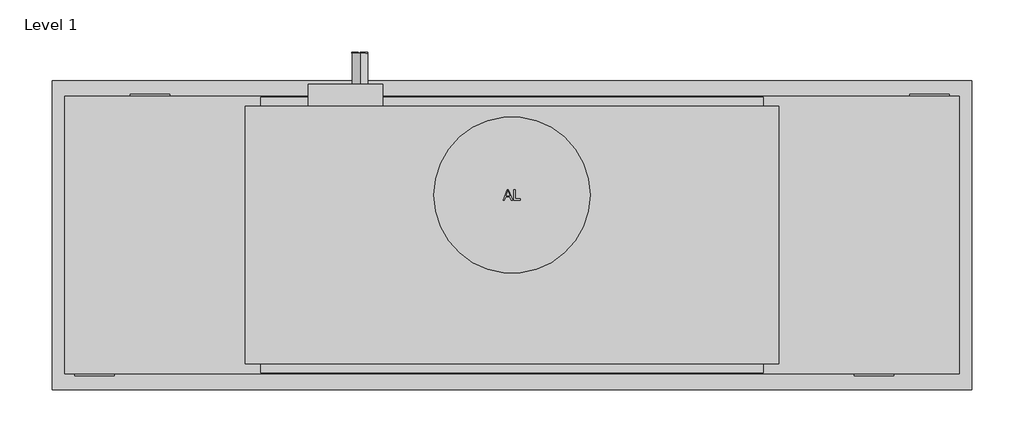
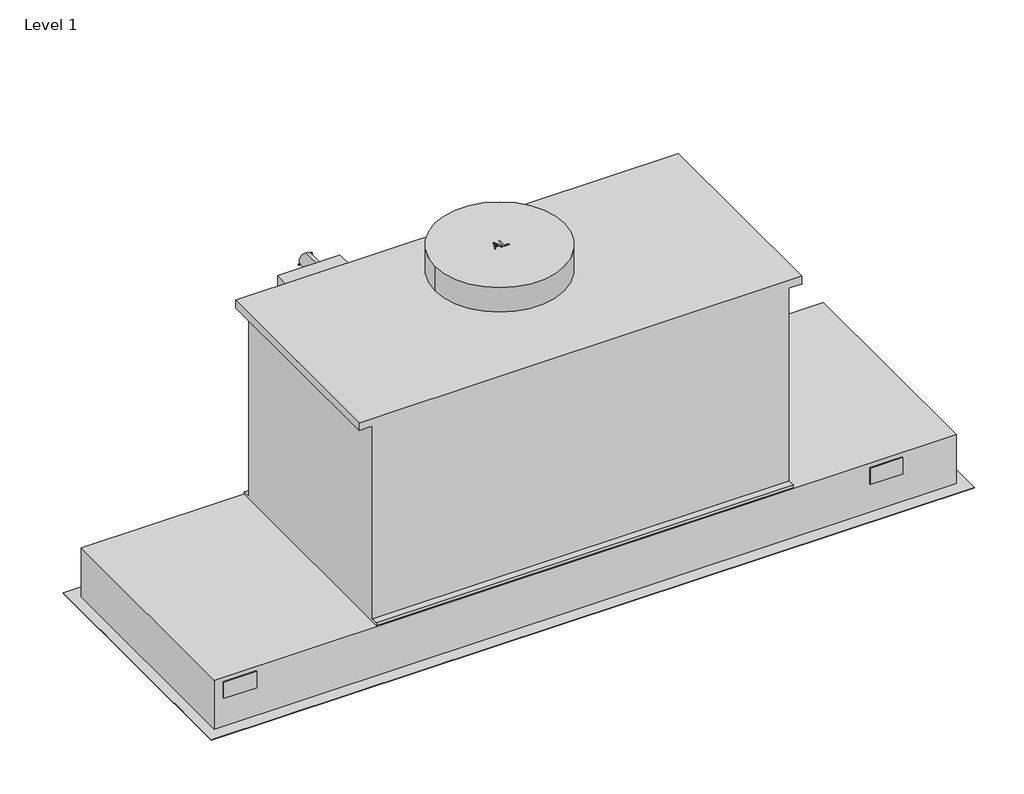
# One storey: 1 proxy.
"""IFC4 building model written with IfcOpenShell, lengths in millimetres."""

from ifc_helpers import new_model, si_unit, origin, place, context, project, spatial, transform, mapped, element, save
from components import specialty_equipment_3949a3b0

model = new_model("IFC4")

# Units and contexts
model_context = context("Model", 3, world=origin())
ifc_project = project(units=[si_unit("LENGTHUNIT", "METRE", prefix="MILLI")], contexts=[model_context])

# Site, building, storey
site = spatial("IfcSite", under=ifc_project)
building = spatial("IfcBuilding", under=site)
storey = spatial("IfcBuildingStorey", under=building, Name="Level 1", Elevation=0.0)

# Proxy
placement = place(None, origin())
specialty_equipment_shape = specialty_equipment_3949a3b0(model_context)
element("IfcBuildingElementProxy", 1, Name="10743660_USA_DA2390 : 28239055_USA_10743660_DA2390", ObjectType="10743660_USA_DA2390 : 28239055_USA_10743660_DA2390", at=placement, inside=storey, context=model_context, shape_type="MappedRepresentation", body=[
    mapped(specialty_equipment_shape, transform((0.0, 0.0, 0.0), x_axis=(1.0, 0.0, 0.0), y_axis=(0.0, 1.0, 0.0), z_axis=(0.0, 0.0, 1.0))),
])

save(model, "model.ifc")
